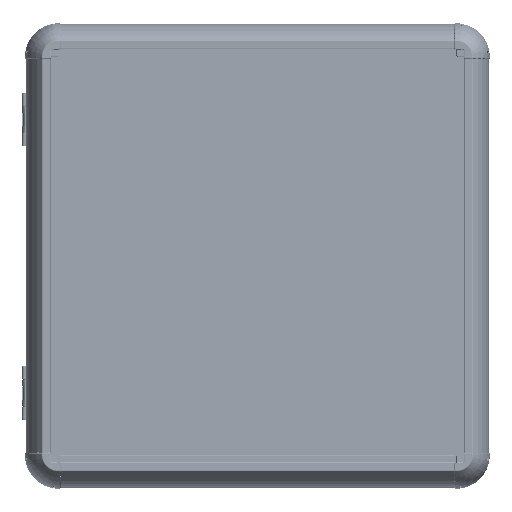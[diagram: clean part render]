
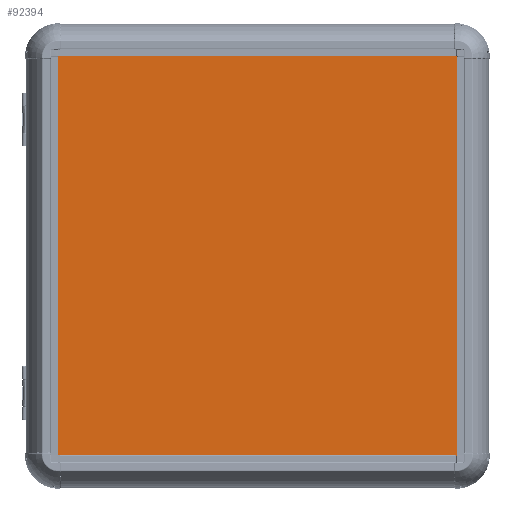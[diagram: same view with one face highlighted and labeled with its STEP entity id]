
A CAD part, top view. The second image highlights one B-rep face of the part: STEP entity #92394.
In plain terms, the highlighted planar face has unit normal (0, 0, 1).
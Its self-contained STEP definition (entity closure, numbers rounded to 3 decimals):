
#3335 = DIRECTION ( 'NONE',  ( 1., 0., 0. ) ) ;
#7678 = CARTESIAN_POINT ( 'NONE',  ( -150., 150., 2. ) ) ;
#12086 = FACE_OUTER_BOUND ( 'NONE', #153289, .T. ) ;
#16690 = ORIENTED_EDGE ( 'NONE', *, *, #48934, .T. ) ;
#35114 = LINE ( 'NONE', #204307, #208197 ) ;
#37544 = EDGE_CURVE ( 'NONE', #57011, #206143, #214850, .T. ) ;
#40872 = DIRECTION ( 'NONE',  ( -1., 0., 0. ) ) ;
#48358 = CARTESIAN_POINT ( 'NONE',  ( 150., 150., 2. ) ) ;
#48934 = EDGE_CURVE ( 'NONE', #196276, #110743, #85635, .T. ) ;
#57011 = VERTEX_POINT ( 'NONE', #7678 ) ;
#57668 = VECTOR ( 'NONE', #67541, 1000. ) ;
#58243 = PLANE ( 'NONE',  #215917 ) ;
#61510 = CARTESIAN_POINT ( 'NONE',  ( 0., 0., 2. ) ) ;
#67541 = DIRECTION ( 'NONE',  ( 0., -1., 0. ) ) ;
#78018 = DIRECTION ( 'NONE',  ( 1., 0., 0. ) ) ;
#79102 = DIRECTION ( 'NONE',  ( 0., 0., 1. ) ) ;
#85635 = LINE ( 'NONE', #48358, #148991 ) ;
#89471 = CARTESIAN_POINT ( 'NONE',  ( 150., 150., 2. ) ) ;
#90375 = VECTOR ( 'NONE', #40872, 1000. ) ;
#90597 = ORIENTED_EDGE ( 'NONE', *, *, #164783, .T. ) ;
#92394 = ADVANCED_FACE ( 'NONE', ( #12086 ), #58243, .T. ) ;
#98937 = CARTESIAN_POINT ( 'NONE',  ( 150., -150., 2. ) ) ;
#110743 = VERTEX_POINT ( 'NONE', #89471 ) ;
#115341 = DIRECTION ( 'NONE',  ( 0., 1., 0. ) ) ;
#126487 = LINE ( 'NONE', #191346, #90375 ) ;
#132799 = CARTESIAN_POINT ( 'NONE',  ( -150., -150., 2. ) ) ;
#146663 = ORIENTED_EDGE ( 'NONE', *, *, #37544, .T. ) ;
#148991 = VECTOR ( 'NONE', #115341, 1000. ) ;
#153289 = EDGE_LOOP ( 'NONE', ( #16690, #191304, #146663, #90597 ) ) ;
#164783 = EDGE_CURVE ( 'NONE', #206143, #196276, #35114, .T. ) ;
#173038 = EDGE_CURVE ( 'NONE', #110743, #57011, #126487, .T. ) ;
#180668 = CARTESIAN_POINT ( 'NONE',  ( -150., 150., 2. ) ) ;
#191304 = ORIENTED_EDGE ( 'NONE', *, *, #173038, .T. ) ;
#191346 = CARTESIAN_POINT ( 'NONE',  ( -150., 150., 2. ) ) ;
#196276 = VERTEX_POINT ( 'NONE', #98937 ) ;
#204307 = CARTESIAN_POINT ( 'NONE',  ( -150., -150., 2. ) ) ;
#206143 = VERTEX_POINT ( 'NONE', #132799 ) ;
#208197 = VECTOR ( 'NONE', #3335, 1000. ) ;
#214850 = LINE ( 'NONE', #180668, #57668 ) ;
#215917 = AXIS2_PLACEMENT_3D ( 'NONE', #61510, #79102, #78018 ) ;
